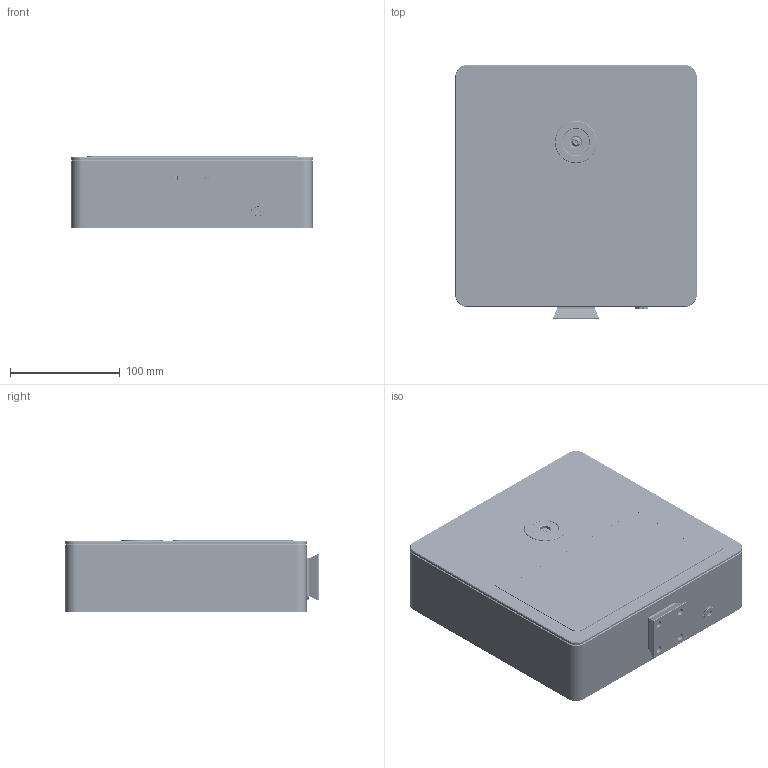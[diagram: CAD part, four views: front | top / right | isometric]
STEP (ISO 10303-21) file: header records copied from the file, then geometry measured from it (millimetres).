
FILE_DESCRIPTION (( 'STEP AP214' ), '1' );
FILE_NAME ('booth-100-000_picam-7inch.STEP', '2024-09-13T17:59:12', ( '' ), ( '' ), 'SwSTEP 2.0', 'SolidWorks 2024', '' );
FILE_SCHEMA (( 'AUTOMOTIVE_DESIGN' ));
Length unit declared in the file: millimetre
Products named in the file (245): 2-37; NC1; NC1-66; CAPC1005X55N-96; 2-35; P2; RJ45 for REF; 1-5; 2-45; DIN 912 M2 x 6 --- 6N_DIN 912 M2 x 6 --- 6N; NC7-70; MECHANICAL PIN-59; 7INCH-800X480-TP; CAPC1005X55N-89; booth-100-000_picam-7inch; 5; RESC1005X40N-103; DGND9; RESC1005X40N; GND-53; SOLDERMASK_TOP; P4-79; MCKP; GND-54; VA2V8; SOT50P160X60-6N; booth-100-000_003_picam-7inch; 1-4; IN-58; GPIO Header for REF; SMTSO-M3-1_5ET; AFVDD; LED for REF; 1-12; SILKSCREEN_BOTTOM; MECHANICAL PIN-63; S2-80; 1-22; MD1P; 7inch-dsi-lcd-c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
Assembly tree (272 placements, depth 6):
  booth-100-000_picam-7inch
    booth-101-000_picam-7inch
      booth-100-000_003_picam-7inch
      screen_ws-7inch
        7inch-dsi-lcd-c
          7INCH-DSI-LCD-PCBA-20230912_ASM
            SMTSO-M2_5-6ET  x4
            SMTSO-M3-1_5ET  x4
          7INCH-800X480-TP
          7INCH-800X480-LCD
          7INCH-DSI-LCD-C-PCB
          2_54MM_2X3PIN-SMT
        booth-100-000_014
        EN ISO 4762 M3 x 10 - 10N_EN ISO 4762 M3 x 10 - 10N  x4
        EN ISO 4762 M3 x 6 - 6N_EN ISO 4762 M3 x 6 - 6N  x4
      booth-100-110
        booth-100-110_001
        DIN 912 M2 x 6 --- 6N_DIN 912 M2 x 6 --- 6N  x4
        Camera_module_3_std_model_simple
          Pins
            _PWDN
            1
            1-0
            1-1
            1-2
            1-3
            1-4
            1-5
            1-6
            1-7
            1-8
            1-9
            1-10
            1-11
            1-12
            1-13
            1-14
            1-15
            1-16
            1-17
            1-18
            1-19
            1-20
            1-21
            1-22
            1-23
            10
            11
            12
            13
            14
            15
            2
            2-24
            2-25
            2-26
            2-27
            2-28
            2-29
            2-30
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Bounding box: 220 x 231 x 66.25 mm (x, y, z)
Volume: 635132.6 mm3; surface area: 501754.1 mm2
Topology: 687 solids, 688 shells, 22585 faces, 59472 edges, 38530 vertices
Faces by surface type: plane 14786, cylinder 6156, cone 854, bspline 301, sphere 250, torus 238
Entity records: 682448 total; most frequent: CARTESIAN_POINT 139725, ORIENTED_EDGE 111318, DIRECTION 108444, EDGE_CURVE 55659, VECTOR 41832, LINE 41832, VERTEX_POINT 36250, AXIS2_PLACEMENT_3D 33306
